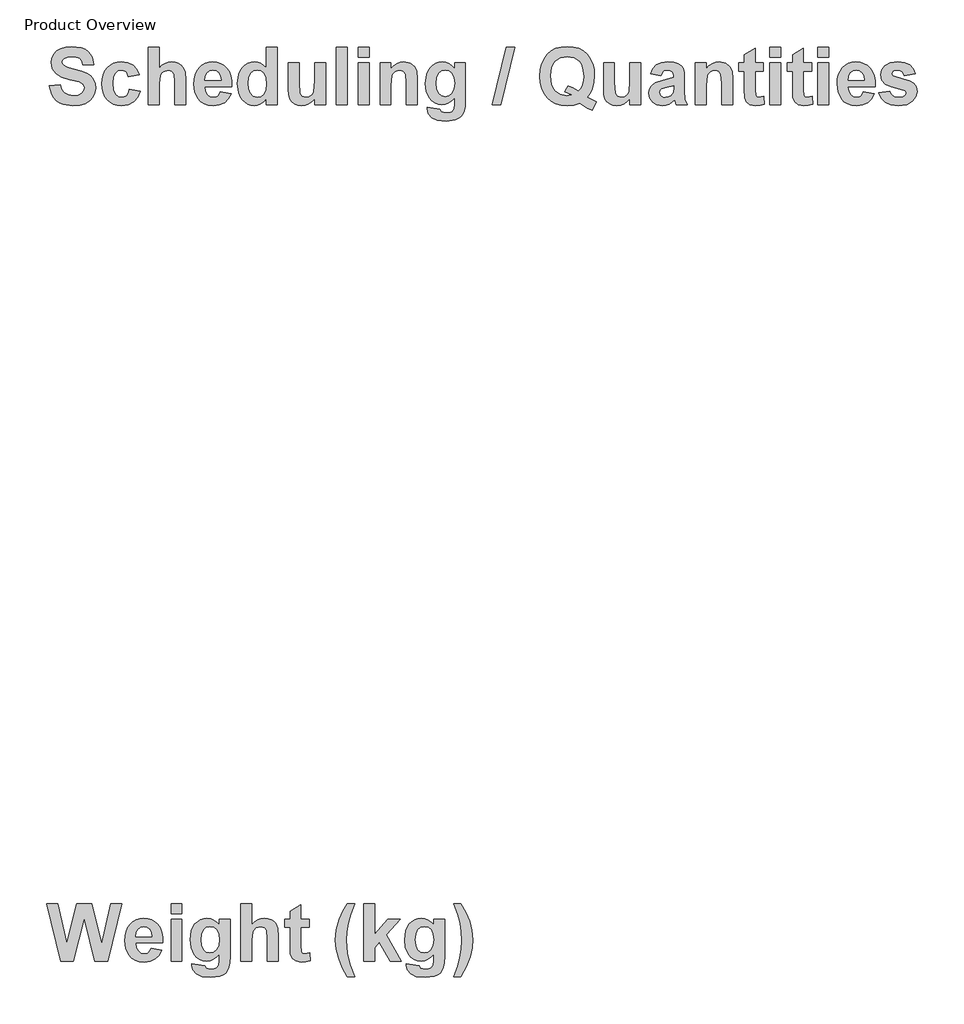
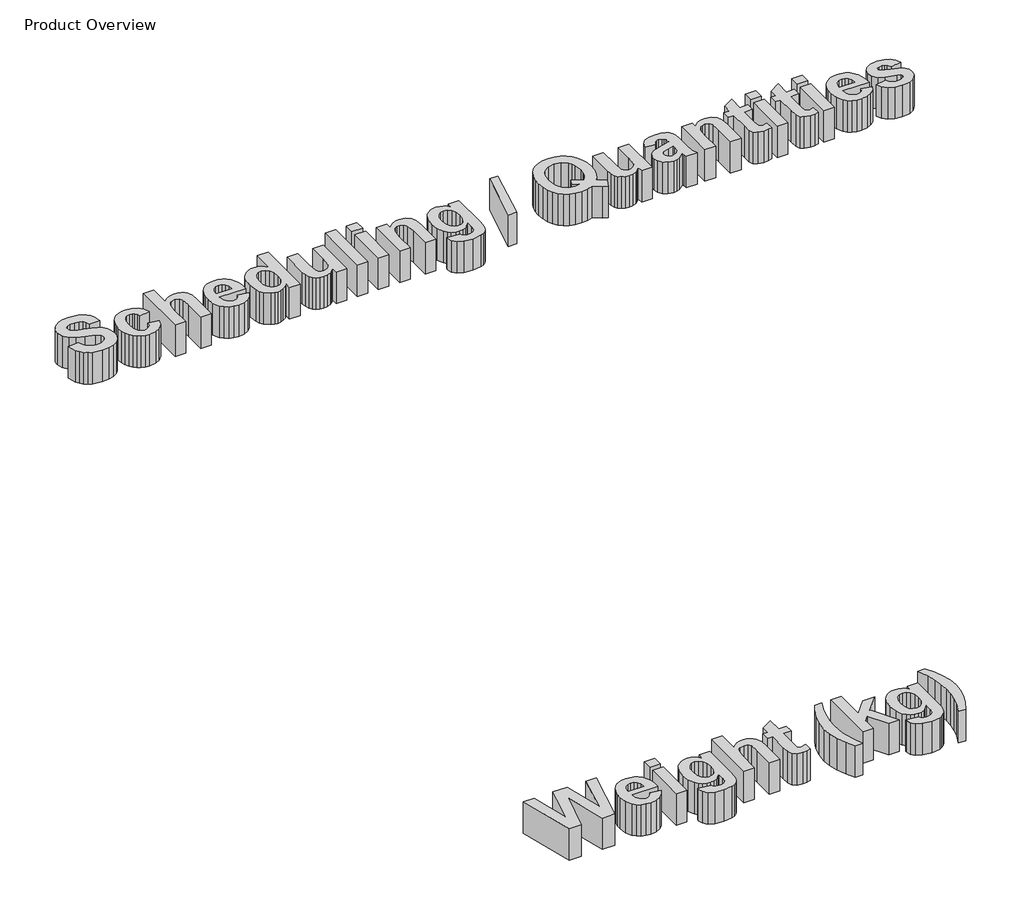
# One storey, part 9 of 12: 2 proxies.
"""IFC4 building model written with IfcOpenShell, lengths in millimetres."""

from ifc_helpers import new_model, si_unit, origin, origin_with_axes, place, context, project, spatial, polyline, outline, extrude, element, save

model = new_model("IFC4")

# Units and contexts
model_context = context("Model", 3, world=origin())
ifc_project = project(units=[si_unit("LENGTHUNIT", "METRE", prefix="MILLI")], contexts=[model_context])

# Site, building, storey
site = spatial("IfcSite", under=ifc_project)
building = spatial("IfcBuilding", under=site)
storey = spatial("IfcBuildingStorey", under=building, Name="Product Overview", Elevation=0.0)

# Proxies
placement = place(None, origin())
element("IfcBuildingElementProxy", 1, Name="250.0 BOLD", ObjectType="250.0 BOLD", at=placement, inside=storey, context=model_context, shape_type="SweptSolid", body=[
    extrude(outline(polyline([(8266.2637782, -26633.8362158), (8203.3297504, -26383.8362158), (8252.1888774, -26383.8362158), (8292.6154647, -26555.5872079), (8336.0802465, -26383.8362158), (8400.1303457, -26383.8362158), (8443.4091155, -26558.4393904), (8483.8357028, -26383.8362158), (8532.6948298, -26383.8362158), (8470.6908615, -26633.8362158), (8414.3292544, -26633.8362158), (8368.0122901, -26446.9562555), (8320.7652663, -26633.8362158), (8266.2637782, -26633.8362158)])), origin_with_axes(), (0.0, 0.0, 1.0), 150.0),
    extrude(outline(polyline([(8659.6789568, -26578.2806603), (8707.2980044, -26586.2171682), (8695.7032623, -26608.4378403), (8678.9001869, -26624.6286265), (8657.0592891, -26634.510509), (8630.3510798, -26637.8044698), (8608.7853246, -26635.8629705), (8590.2190113, -26630.0384728), (8574.6521401, -26620.3309765), (8562.0847107, -26606.7404817), (8548.9708715, -26578.6061811), (8544.5995917, -26543.9304619), (8546.0489344, -26522.5235918), (8550.3969627, -26503.5658785), (8557.6436765, -26487.057322), (8567.7890758, -26472.9979222), (8580.151117, -26461.7674534), (8594.0477564, -26453.74569), (8609.478994, -26448.932632), (8626.4448298, -26447.3282793), (8645.2979114, -26448.9752597), (8662.0506086, -26453.9162009), (8676.7029213, -26462.151103), (8689.2548496, -26473.6799658), (8699.2568648, -26488.6112964), (8706.2594379, -26507.0536017), (8710.2625691, -26529.0068817), (8711.2662584, -26554.4711365), (8592.2186393, -26554.4711365), (8595.2723347, -26574.5294202), (8603.4413576, -26589.5653825), (8615.4856284, -26598.9589837), (8630.1650679, -26602.0901841), (8640.1632078, -26600.6795938), (8648.4562385, -26596.447823), (8654.9821562, -26589.0848517), (8659.6789568, -26578.2806603)]), holes=[polyline([(8663.6472107, -26526.6933587), (8660.7485252, -26507.8674038), (8653.0445322, -26494.1722773), (8641.8528159, -26485.8249931), (8628.4909607, -26483.042565), (8614.385058, -26485.9722525), (8602.9453258, -26494.761315), (8595.4428457, -26508.6347029), (8593.0246909, -26526.6933587), (8663.6472107, -26526.6933587)])]), origin_with_axes(), (0.0, 0.0, 1.0), 150.0),
    extrude(outline(polyline([(8746.9805441, -26427.4870095), (8746.9805441, -26383.8362158), (8794.5995917, -26383.8362158), (8794.5995917, -26427.4870095), (8746.9805441, -26427.4870095)])), origin_with_axes(), (0.0, 0.0, 1.0), 150.0),
    extrude(outline(polyline([(8746.9805441, -26633.8362158), (8746.9805441, -26451.2965333), (8794.5995917, -26451.2965333), (8794.5995917, -26633.8362158), (8746.9805441, -26633.8362158)])), origin_with_axes(), (0.0, 0.0, 1.0), 150.0),
    extrude(outline(polyline([(8838.2503853, -26645.7409777), (8893.8059409, -26653.6774857), (8899.6963179, -26665.0862158), (8919.8476076, -26669.5505015), (8935.2555937, -26668.1399113), (8946.261298, -26663.9081404), (8955.1898695, -26651.6933587), (8957.2980044, -26629.495938), (8957.2980044, -26602.8962357), (8945.0173434, -26616.432477), (8931.7368685, -26626.1012208), (8917.4565795, -26631.9024671), (8902.1764766, -26633.8362158), (8885.4857834, -26631.8947166), (8870.6319578, -26626.0702188), (8857.6149997, -26616.3627225), (8846.4349092, -26602.7722277), (8834.3441353, -26575.2114638), (8830.3138774, -26541.636315), (8835.5919652, -26501.1709753), (8842.1895749, -26485.0015029), (8851.4262286, -26471.5408289), (8862.627633, -26460.9478385), (8875.119495, -26453.3814167), (8888.9018145, -26448.8415637), (8903.9745917, -26447.3282793), (8919.4445818, -26449.1225191), (8933.4884806, -26454.5052386), (8946.1062881, -26463.4764378), (8957.2980044, -26476.0361166), (8957.2980044, -26451.2965333), (9004.917052, -26451.2965333), (9004.917052, -26613.4369103), (9003.6227192, -26641.3464465), (8999.7397207, -26661.2109678), (8993.5238228, -26675.3401221), (8985.2307921, -26686.0435571), (8974.3335947, -26694.0653205), (8960.3051968, -26700.1494599), (8920.8396711, -26705.2647873), (8882.3197058, -26701.4515432), (8856.9135798, -26690.0118111), (8842.776675, -26672.7127039), (8838.0643734, -26651.3213349), (8838.2503853, -26645.7409777)]), holes=[polyline([(8877.932925, -26539.8382), (8880.6843511, -26566.0348765), (8888.9386294, -26584.1090333), (8901.2386666, -26594.6187059), (8916.1273695, -26598.1219301), (8932.0856408, -26594.5257), (8945.3622405, -26583.7370095), (8954.3140634, -26565.8953676), (8957.2980044, -26541.1402833), (8954.4380714, -26515.4318879), (8945.8582722, -26497.3344797), (8932.9071934, -26486.6155437), (8916.9334211, -26483.042565), (8901.4401795, -26486.5457892), (8888.9386294, -26497.0554619), (8880.6843511, -26514.7575948), (8877.932925, -26539.8382)])]), origin_with_axes(), (0.0, 0.0, 1.0), 150.0),
    extrude(outline(polyline([(9100.1551472, -26383.8362158), (9100.1551472, -26474.3620095), (9112.1180379, -26462.5347525), (9125.1892494, -26454.0867119), (9139.3687819, -26449.0178875), (9154.6566353, -26447.3282793), (9170.1576274, -26448.870628), (9184.0465163, -26453.4976742), (9195.5172504, -26460.5351246), (9203.7637782, -26469.3086861), (9212.8163576, -26490.6070492), (9215.2345123, -26526.8173666), (9215.2345123, -26633.8362158), (9167.6154647, -26633.8362158), (9167.6154647, -26536.7380015), (9164.9492941, -26500.0006503), (9155.5246909, -26487.6308587), (9138.6596115, -26483.042565), (9117.8262782, -26488.932942), (9109.8820198, -26496.3114142), (9104.4024191, -26506.6660769), (9100.1551472, -26541.760323), (9100.1551472, -26633.8362158), (9052.5360996, -26633.8362158), (9052.5360996, -26383.8362158), (9100.1551472, -26383.8362158)])), origin_with_axes(), (0.0, 0.0, 1.0), 150.0),
    extrude(outline(polyline([(9350.1551472, -26451.2965333), (9350.1551472, -26487.010819), (9314.4408615, -26487.010819), (9314.4408615, -26565.3218309), (9315.525931, -26593.0066027), (9320.4552465, -26599.5170194), (9329.8178457, -26602.0901841), (9352.1392742, -26597.5018904), (9354.1234012, -26631.3560571), (9335.7547256, -26636.1923666), (9315.1229052, -26637.8044698), (9291.0653655, -26633.3401841), (9275.3473595, -26621.807446), (9268.3719131, -26602.6482198), (9266.8218139, -26567.9880015), (9266.8218139, -26487.010819), (9243.0122901, -26487.010819), (9243.0122901, -26451.2965333), (9266.8218139, -26451.2965333), (9266.8218139, -26415.5822476), (9314.4408615, -26387.8044698), (9314.4408615, -26451.2965333), (9350.1551472, -26451.2965333)])), origin_with_axes(), (0.0, 0.0, 1.0), 150.0),
    extrude(outline(polyline([(9548.5678457, -26701.2965333), (9516.8218139, -26701.2965333), (9494.6011418, -26662.4122947), (9478.4103556, -26622.0244599), (9468.5284731, -26581.5436191), (9465.2345123, -26542.3803627), (9469.2647703, -26495.9238894), (9481.3555441, -26452.0405809), (9497.2285599, -26416.4813051), (9516.8218139, -26383.8362158), (9548.5678457, -26383.8362158), (9531.353994, -26430.1376791), (9520.51105, -26468.9676642), (9514.7679325, -26505.1159777), (9512.8535599, -26543.3724261), (9517.4418536, -26598.8969797), (9530.0286592, -26652.8714341), (9548.5678457, -26701.2965333)])), origin_with_axes(), (0.0, 0.0, 1.0), 150.0),
    extrude(outline(polyline([(9588.2503853, -26633.8362158), (9588.2503853, -26383.8362158), (9635.869433, -26383.8362158), (9635.869433, -26515.5946484), (9693.4091155, -26451.2965333), (9748.9646711, -26451.2965333), (9687.7667544, -26518.3848269), (9752.932925, -26633.8362158), (9705.3138774, -26633.8362158), (9657.1367941, -26552.0529817), (9635.869433, -26575.3664738), (9635.869433, -26633.8362158), (9588.2503853, -26633.8362158)])), origin_with_axes(), (0.0, 0.0, 1.0), 150.0),
    extrude(outline(polyline([(9774.7583218, -26645.7409777), (9830.3138774, -26653.6774857), (9836.2042544, -26665.0862158), (9856.3555441, -26669.5505015), (9871.7635302, -26668.1399113), (9882.7692345, -26663.9081404), (9891.697806, -26651.6933587), (9893.8059409, -26629.495938), (9893.8059409, -26602.8962357), (9881.5252799, -26616.432477), (9868.244805, -26626.1012208), (9853.964516, -26631.9024671), (9838.6844131, -26633.8362158), (9821.9937199, -26631.8947166), (9807.1398943, -26626.0702188), (9794.1229362, -26616.3627225), (9782.9428457, -26602.7722277), (9770.8520718, -26575.2114638), (9766.8218139, -26541.636315), (9772.0999017, -26501.1709753), (9778.6975115, -26485.0015029), (9787.9341651, -26471.5408289), (9799.1355695, -26460.9478385), (9811.6274315, -26453.3814167), (9825.409751, -26448.8415637), (9840.4825282, -26447.3282793), (9855.9525183, -26449.1225191), (9869.9964171, -26454.5052386), (9882.6142246, -26463.4764378), (9893.8059409, -26476.0361166), (9893.8059409, -26451.2965333), (9941.4249885, -26451.2965333), (9941.4249885, -26613.4369103), (9940.1306557, -26641.3464465), (9936.2476572, -26661.2109678), (9930.0317593, -26675.3401221), (9921.7387286, -26686.0435571), (9910.8415312, -26694.0653205), (9896.8131334, -26700.1494599), (9857.3476076, -26705.2647873), (9818.8276423, -26701.4515432), (9793.4215163, -26690.0118111), (9779.2846115, -26672.7127039), (9774.5723099, -26651.3213349), (9774.7583218, -26645.7409777)]), holes=[polyline([(9814.4408615, -26539.8382), (9817.1922876, -26566.0348765), (9825.4465659, -26584.1090333), (9837.7466031, -26594.6187059), (9852.635306, -26598.1219301), (9868.5935773, -26594.5257), (9881.870177, -26583.7370095), (9890.8219999, -26565.8953676), (9893.8059409, -26541.1402833), (9890.9460079, -26515.4318879), (9882.3662088, -26497.3344797), (9869.4151299, -26486.6155437), (9853.4413576, -26483.042565), (9837.948116, -26486.5457892), (9825.4465659, -26497.0554619), (9817.1922876, -26514.7575948), (9814.4408615, -26539.8382)])]), origin_with_axes(), (0.0, 0.0, 1.0), 150.0),
    extrude(outline(polyline([(9981.1075282, -26701.2965333), (9998.7476572, -26656.2196484), (10008.2342643, -26620.0403329), (10014.713679, -26581.1328428), (10016.8218139, -26543.3724261), (10014.9151919, -26505.1159777), (10009.1953258, -26468.9676642), (9998.3601324, -26430.1376791), (9981.1075282, -26383.8362158), (10012.8535599, -26383.8362158), (10034.6092023, -26420.4340581), (10050.8929945, -26459.1710373), (10061.0538948, -26499.2566027), (10064.4408615, -26539.9002039), (10061.7281879, -26575.6764936), (10053.5901671, -26613.932942), (10037.2056185, -26657.9092565), (10012.8535599, -26701.2965333), (9981.1075282, -26701.2965333)])), origin_with_axes(), (0.0, 0.0, 1.0), 150.0),
])
element("IfcBuildingElementProxy", 2, Name="250.0 BOLD", ObjectType="250.0 BOLD", at=placement, inside=storey, context=model_context, shape_type="SweptSolid", body=[
    extrude(outline(polyline([(8215.2345123, -22810.5028825), (8262.8535599, -22806.5346285), (8269.7980044, -22827.8329916), (8281.4547504, -22842.620938), (8297.901303, -22851.2704916), (8319.2151671, -22854.1536761), (8341.3350828, -22851.6037629), (8357.2235996, -22843.9540234), (8366.8032127, -22832.8940655), (8369.9964171, -22820.1134976), (8364.6950778, -22805.2015432), (8346.1248893, -22794.5058587), (8304.8302465, -22783.9031801), (8269.5809905, -22772.9439787), (8246.6705242, -22759.5356206), (8229.0458963, -22736.7026593), (8223.1710203, -22709.3744103), (8225.8681929, -22690.9592317), (8233.9597107, -22673.7841325), (8247.135554, -22659.197699), (8265.0857028, -22648.5485174), (8287.5156383, -22642.0381007), (8314.1308417, -22639.8679619), (8355.2627241, -22645.2778081), (8371.4748242, -22652.0401159), (8384.7843635, -22661.5073468), (8395.2339698, -22673.229972), (8402.8662708, -22686.7584628), (8409.6789568, -22719.2330412), (8362.0599092, -22719.2330412), (8356.7973223, -22702.8717441), (8347.7059905, -22691.8582892), (8333.94886, -22685.6036389), (8314.6888774, -22683.5187555), (8294.4135798, -22685.7353974), (8279.0985996, -22692.385323), (8272.8672008, -22699.0507496), (8270.7900679, -22707.6382992), (8272.6811889, -22715.745318), (8278.354552, -22722.5812555), (8294.8243561, -22730.5875179), (8325.0125381, -22738.8572972), (8357.2313501, -22747.4603478), (8379.7930441, -22756.4664242), (8395.604056, -22767.3713721), (8407.5708218, -22781.6710373), (8415.104304, -22799.5436811), (8417.6154647, -22821.167565), (8414.6470247, -22841.8148865), (8405.7417048, -22861.0981206), (8391.4032871, -22877.3121583), (8372.135554, -22888.7518904), (8347.729242, -22895.541325), (8317.9750877, -22897.8044698), (8276.2154151, -22892.2318631), (8259.4510922, -22885.2661048), (8245.4304449, -22875.5140432), (8234.0565919, -22863.0919357), (8225.2326522, -22848.1160397), (8215.2345123, -22810.5028825)])), origin_with_axes(), (0.0, 0.0, 1.0), 150.0),
    extrude(outline(polyline([(8608.0916552, -22762.8838349), (8560.4726076, -22770.8203428), (8556.8221239, -22758.7063175), (8550.3349588, -22750.0180115), (8541.2436269, -22744.7864266), (8529.7806433, -22743.042565), (8514.682677, -22746.3132744), (8502.994929, -22756.1254023), (8495.5079498, -22773.5950204), (8493.0122901, -22799.8382), (8495.6087063, -22828.9335621), (8503.3979548, -22848.0152833), (8515.5584831, -22858.5714589), (8531.2687385, -22862.0901841), (8543.1657499, -22860.0828056), (8552.6911095, -22854.0606702), (8559.7983144, -22843.1247203), (8564.4408615, -22826.3758984), (8612.0599092, -22834.3124063), (8601.635492, -22861.8964217), (8584.6231532, -22881.776444), (8560.8678829, -22893.7974633), (8530.2146711, -22897.8044698), (8511.8208063, -22896.2272439), (8495.3916924, -22891.495566), (8480.9273292, -22883.6094363), (8468.4277167, -22872.5688547), (8458.3501342, -22858.7419698), (8451.151861, -22842.4969301), (8446.8328971, -22823.8337357), (8445.3932425, -22802.7523865), (8446.823209, -22781.4327095), (8451.1131086, -22762.6125675), (8458.2629411, -22746.2919605), (8468.2727068, -22732.4708884), (8480.7238786, -22721.470997), (8495.19793, -22713.6139316), (8511.6948608, -22708.8996924), (8530.2146711, -22707.3282793), (8558.8760054, -22710.7617491), (8580.9959211, -22721.0621583), (8597.1944578, -22738.3845169), (8608.0916552, -22762.8838349)])), origin_with_axes(), (0.0, 0.0, 1.0), 150.0),
    extrude(outline(polyline([(8695.3932425, -22643.8362158), (8695.3932425, -22734.3620095), (8707.3561331, -22722.5347525), (8720.4273447, -22714.0867119), (8734.6068772, -22709.0178875), (8749.8947306, -22707.3282793), (8765.3957226, -22708.870628), (8779.2846115, -22713.4976742), (8790.7553457, -22720.5351246), (8799.0018734, -22729.3086861), (8808.0544528, -22750.6070492), (8810.4726076, -22786.8173666), (8810.4726076, -22893.8362158), (8762.8535599, -22893.8362158), (8762.8535599, -22796.7380015), (8760.1873893, -22760.0006503), (8750.7627861, -22747.6308587), (8733.8977068, -22743.042565), (8713.0643734, -22748.932942), (8705.120115, -22756.3114142), (8699.6405143, -22766.6660769), (8695.3932425, -22801.760323), (8695.3932425, -22893.8362158), (8647.7741949, -22893.8362158), (8647.7741949, -22643.8362158), (8695.3932425, -22643.8362158)])), origin_with_axes(), (0.0, 0.0, 1.0), 150.0),
    extrude(outline(polyline([(8961.2662584, -22838.2806603), (9008.885306, -22846.2171682), (8997.2905639, -22868.4378403), (8980.4874885, -22884.6286265), (8958.6465907, -22894.510509), (8931.9383814, -22897.8044698), (8910.3726262, -22895.8629705), (8891.8063129, -22890.0384728), (8876.2394416, -22880.3309765), (8863.6720123, -22866.7404817), (8850.558173, -22838.6061811), (8846.1868933, -22803.9304619), (8847.636236, -22782.5235918), (8851.9842643, -22763.5658785), (8859.2309781, -22747.057322), (8869.3763774, -22732.9979222), (8881.7384186, -22721.7674534), (8895.635058, -22713.74569), (8911.0662956, -22708.932632), (8928.0321314, -22707.3282793), (8946.885213, -22708.9752597), (8963.6379101, -22713.9162009), (8978.2902229, -22722.151103), (8990.8421512, -22733.6799658), (9000.8441663, -22748.6112964), (9007.8467395, -22767.0536017), (9011.8498707, -22789.0068817), (9012.8535599, -22814.4711365), (8893.8059409, -22814.4711365), (8896.8596363, -22834.5294202), (8905.0286592, -22849.5653825), (8917.07293, -22858.9589837), (8931.7523695, -22862.0901841), (8941.7505093, -22860.6795938), (8950.0435401, -22856.447823), (8956.5694578, -22849.0848517), (8961.2662584, -22838.2806603)]), holes=[polyline([(8965.2345123, -22786.6933587), (8962.3358268, -22767.8674038), (8954.6318338, -22754.1722773), (8943.4401175, -22745.8249931), (8930.0782623, -22743.042565), (8915.9723595, -22745.9722525), (8904.5326274, -22754.761315), (8897.0301472, -22768.6347029), (8894.6119925, -22786.6933587), (8965.2345123, -22786.6933587)])]), origin_with_axes(), (0.0, 0.0, 1.0), 150.0),
    extrude(outline(polyline([(9211.2662584, -22893.8362158), (9163.6472107, -22893.8362158), (9163.6472107, -22867.5465333), (9152.0292172, -22880.9006379), (9138.5046016, -22890.3329916), (9123.9724216, -22895.9366003), (9109.3317345, -22897.8044698), (9094.8944981, -22896.2233686), (9081.5307053, -22891.480065), (9058.0234508, -22872.5068507), (9048.6782902, -22858.6063361), (9042.0031755, -22842.2024113), (9036.6630838, -22801.8843309), (9041.995425, -22761.1167218), (9048.6608516, -22744.8949336), (9057.9924488, -22731.447823), (9069.3624265, -22720.8955226), (9082.1429945, -22713.3581652), (9096.3341527, -22708.8357508), (9111.9359012, -22707.3282793), (9126.3750753, -22708.8900043), (9139.8066849, -22713.5751791), (9163.6472107, -22732.3158785), (9163.6472107, -22643.8362158), (9211.2662584, -22643.8362158), (9211.2662584, -22893.8362158)]), holes=[polyline([(9084.2821314, -22799.0941523), (9086.2662584, -22825.0118111), (9092.2186393, -22842.620938), (9105.9680193, -22857.2228726), (9124.2746909, -22862.0901841), (9139.4656631, -22858.4397004), (9152.1764766, -22847.4882496), (9160.7795272, -22829.2823344), (9163.6472107, -22803.8684579), (9160.8647827, -22776.0364266), (9152.5174984, -22757.2724757), (9139.8144354, -22746.6000427), (9123.9646711, -22743.042565), (9108.463679, -22746.5612902), (9095.6908615, -22757.1174658), (9087.1343139, -22774.6490878), (9084.2821314, -22799.0941523)])]), origin_with_axes(), (0.0, 0.0, 1.0), 150.0),
    extrude(outline(polyline([(9373.9646711, -22893.8362158), (9373.9646711, -22867.0505015), (9362.9977192, -22879.8465705), (9349.0700778, -22889.588944), (9333.2203134, -22895.7505883), (9316.4869925, -22897.8044698), (9299.947434, -22895.7893408), (9285.1749885, -22889.7439539), (9273.2082226, -22880.0480834), (9265.0857028, -22867.0815035), (9260.4354052, -22849.6816399), (9258.885306, -22826.6859182), (9258.885306, -22711.2965333), (9306.5043536, -22711.2965333), (9306.5043536, -22795.6839341), (9309.0775183, -22843.1479718), (9318.5021215, -22856.9748567), (9335.8942345, -22862.0901841), (9347.2952142, -22860.385075), (9357.4406135, -22855.2697476), (9365.4546264, -22847.620008), (9370.4614468, -22838.3116623), (9373.9646711, -22788.7394896), (9373.9646711, -22711.2965333), (9421.5837187, -22711.2965333), (9421.5837187, -22893.8362158), (9373.9646711, -22893.8362158)])), origin_with_axes(), (0.0, 0.0, 1.0), 150.0),
    extrude(outline(polyline([(9469.2027663, -22893.8362158), (9469.2027663, -22643.8362158), (9516.8218139, -22643.8362158), (9516.8218139, -22893.8362158), (9469.2027663, -22893.8362158)])), origin_with_axes(), (0.0, 0.0, 1.0), 150.0),
    extrude(outline(polyline([(9564.4408615, -22687.4870095), (9564.4408615, -22643.8362158), (9612.0599092, -22643.8362158), (9612.0599092, -22687.4870095), (9564.4408615, -22687.4870095)])), origin_with_axes(), (0.0, 0.0, 1.0), 150.0),
    extrude(outline(polyline([(9564.4408615, -22893.8362158), (9564.4408615, -22711.2965333), (9612.0599092, -22711.2965333), (9612.0599092, -22893.8362158), (9564.4408615, -22893.8362158)])), origin_with_axes(), (0.0, 0.0, 1.0), 150.0),
    extrude(outline(polyline([(9822.3773695, -22893.8362158), (9774.7583218, -22893.8362158), (9774.7583218, -22800.0242119), (9771.7821314, -22761.4577436), (9762.0475084, -22747.8788746), (9745.8644726, -22743.042565), (9734.339485, -22744.7709256), (9724.0700778, -22749.9560075), (9715.947558, -22758.0010224), (9710.8632326, -22768.3091821), (9707.2980044, -22810.5648865), (9707.2980044, -22893.8362158), (9659.6789568, -22893.8362158), (9659.6789568, -22711.2965333), (9707.2980044, -22711.2965333), (9707.2980044, -22737.5862158), (9719.3461505, -22724.3483686), (9732.8591403, -22714.8927634), (9747.8369739, -22709.2194003), (9764.2796512, -22707.3282793), (9791.9334211, -22713.0946484), (9810.9066353, -22727.7895888), (9819.8662088, -22748.0338845), (9822.3773695, -22780.4929619), (9822.3773695, -22893.8362158)])), origin_with_axes(), (0.0, 0.0, 1.0), 150.0),
    extrude(outline(polyline([(9866.0281631, -22905.7409777), (9921.5837187, -22913.6774857), (9927.4740957, -22925.0862158), (9947.6253853, -22929.5505015), (9963.0333715, -22928.1399113), (9974.0390758, -22923.9081404), (9982.9676472, -22911.6933587), (9985.0757822, -22889.495938), (9985.0757822, -22862.8962357), (9972.7951212, -22876.432477), (9959.5146463, -22886.1012208), (9945.2343573, -22891.9024671), (9929.9542544, -22893.8362158), (9913.2635612, -22891.8947166), (9898.4097355, -22886.0702188), (9885.3927775, -22876.3627225), (9874.2126869, -22862.7722277), (9862.1219131, -22835.2114638), (9858.0916552, -22801.636315), (9863.369743, -22761.1709753), (9869.9673527, -22745.0015029), (9879.2040064, -22731.5408289), (9890.4054108, -22720.9478385), (9902.8972727, -22713.3814167), (9916.6795923, -22708.8415637), (9931.7523695, -22707.3282793), (9947.2223595, -22709.1225191), (9961.2662584, -22714.5052386), (9973.8840659, -22723.4764378), (9985.0757822, -22736.0361166), (9985.0757822, -22711.2965333), (10032.6948298, -22711.2965333), (10032.6948298, -22873.4369103), (10031.4004969, -22901.3464465), (10027.5174984, -22921.2109678), (10021.3016006, -22935.3401221), (10013.0085699, -22946.0435571), (10002.1113724, -22954.0653205), (9988.0829746, -22960.1494599), (9948.6174488, -22965.2647873), (9910.0974836, -22961.4515432), (9884.6913576, -22950.0118111), (9870.5544528, -22932.7127039), (9865.8421512, -22911.3213349), (9866.0281631, -22905.7409777)]), holes=[polyline([(9905.7107028, -22799.8382), (9908.4621289, -22826.0348765), (9916.7164072, -22844.1090333), (9929.0164444, -22854.6187059), (9943.9051472, -22858.1219301), (9959.8634186, -22854.5257), (9973.1400183, -22843.7370095), (9982.0918412, -22825.8953676), (9985.0757822, -22801.1402833), (9982.2158491, -22775.4318879), (9973.63605, -22757.3344797), (9960.6849712, -22746.6155437), (9944.7111988, -22743.042565), (9929.2179573, -22746.5457892), (9916.7164072, -22757.0554619), (9908.4621289, -22774.7575948), (9905.7107028, -22799.8382)])]), origin_with_axes(), (0.0, 0.0, 1.0), 150.0),
    extrude(outline(polyline([(10150.8743933, -22893.8362158), (10210.3982028, -22643.8362158), (10246.9805441, -22643.8362158), (10187.4567345, -22893.8362158), (10150.8743933, -22893.8362158)])), origin_with_axes(), (0.0, 0.0, 1.0), 150.0),
    extrude(outline(polyline([(10564.8128853, -22860.9121087), (10604.1234012, -22881.9314539), (10586.0182425, -22917.6457396), (10564.2548496, -22908.7171682), (10531.5787584, -22887.2017912), (10506.2811393, -22895.1538002), (10478.3793536, -22897.8044698), (10451.698271, -22895.6885844), (10428.0786343, -22889.3409281), (10407.5204436, -22878.761501), (10390.0236988, -22863.9503031), (10376.0534297, -22845.3103602), (10366.0746661, -22823.244698), (10360.0874079, -22797.7533165), (10358.0916552, -22768.8362158), (10360.1029089, -22739.9946825), (10366.1366701, -22714.5439911), (10376.1929387, -22692.4841418), (10390.2717147, -22673.8151345), (10407.7955862, -22658.9632465), (10428.1871413, -22648.354755), (10451.4463799, -22641.9896601), (10477.573302, -22639.8679619), (10503.4715845, -22641.979972), (10526.5409359, -22648.3160025), (10546.7813563, -22658.8760534), (10564.1928457, -22673.6601246), (10578.1902415, -22692.245814), (10588.1883814, -22714.2107198), (10594.1872653, -22739.5548418), (10596.1868933, -22768.2781801), (10593.8927465, -22798.5051146), (10587.010306, -22824.8257992), (10577.9887286, -22843.1789738), (10564.8128853, -22860.9121087)]), holes=[polyline([(10525.3163576, -22833.6923666), (10535.5082598, -22821.152064), (10542.7704746, -22806.2246087), (10547.1185029, -22788.9100005), (10548.5678457, -22769.2082396), (10543.6385302, -22731.5640804), (10537.4768858, -22716.8284498), (10528.8505838, -22704.8171186), (10506.0796264, -22688.8433463), (10477.2012782, -22683.5187555), (10448.3461815, -22688.8045938), (10425.5209707, -22704.6621087), (10416.8539785, -22716.5668706), (10410.6632698, -22731.1378031), (10405.7107028, -22768.2781801), (10410.5935153, -22805.9455908), (10416.6970309, -22820.7102858), (10425.2419528, -22832.7623071), (10447.3463675, -22848.8058339), (10474.5971115, -22854.1536761), (10495.6164568, -22850.9294698), (10465.2345123, -22838.2806603), (10478.9993933, -22810.5028825), (10502.7004101, -22820.1755015), (10525.3163576, -22833.6923666)])]), origin_with_axes(), (0.0, 0.0, 1.0), 150.0),
    extrude(outline(polyline([(10750.948798, -22893.8362158), (10750.948798, -22867.0505015), (10739.9818462, -22879.8465705), (10726.0542048, -22889.588944), (10710.2044404, -22895.7505883), (10693.4711195, -22897.8044698), (10676.9315609, -22895.7893408), (10662.1591155, -22889.7439539), (10650.1923496, -22880.0480834), (10642.0698298, -22867.0815035), (10637.4195322, -22849.6816399), (10635.869433, -22826.6859182), (10635.869433, -22711.2965333), (10683.4884806, -22711.2965333), (10683.4884806, -22795.6839341), (10686.0616453, -22843.1479718), (10695.4862484, -22856.9748567), (10712.8783615, -22862.0901841), (10724.2793412, -22860.385075), (10734.4247405, -22855.2697476), (10742.4387534, -22847.620008), (10747.4455738, -22838.3116623), (10750.948798, -22788.7394896), (10750.948798, -22711.2965333), (10798.5678457, -22711.2965333), (10798.5678457, -22893.8362158), (10750.948798, -22893.8362158)])), origin_with_axes(), (0.0, 0.0, 1.0), 150.0),
    extrude(outline(polyline([(10885.869433, -22766.8520888), (10842.2186393, -22758.9155809), (10851.681995, -22736.0361166), (10866.183173, -22719.9770888), (10887.3187757, -22710.4904817), (10916.6854052, -22707.3282793), (10943.2386046, -22709.2426518), (10962.010306, -22714.9857694), (10974.6901175, -22723.666325), (10982.9676472, -22734.3930115), (10987.5249389, -22751.0643284), (10989.0440361, -22777.5787753), (10989.0440361, -22833.8783785), (10991.5551968, -22869.3446484), (11000.948798, -22893.8362158), (10953.3297504, -22893.8362158), (10948.8654647, -22878.7072476), (10947.1913576, -22872.6928627), (10921.7077266, -22891.511067), (10907.6793288, -22896.2311191), (10892.7518734, -22897.8044698), (10868.4695694, -22893.9834753), (10849.9381334, -22882.5204916), (10838.1961319, -22865.229135), (10834.2821314, -22843.9230214), (10836.025993, -22829.3210869), (10841.2575778, -22816.3932595), (10849.635864, -22805.7130759), (10860.8198298, -22797.854073), (10897.0921512, -22786.6313547), (10941.4249885, -22774.7885968), (10941.4249885, -22769.7662753), (10939.9446438, -22757.3964837), (10935.5036095, -22749.1809579), (10926.9703134, -22744.5771632), (10913.213183, -22743.042565), (10903.339051, -22744.3601494), (10895.9140758, -22748.3129023), (10885.869433, -22766.8520888)]), holes=[polyline([(10941.4249885, -22810.5028825), (10914.5772703, -22817.1063051), (10890.5197306, -22824.6397873), (10884.0558169, -22831.4137208), (10881.901179, -22839.8307595), (10883.6295396, -22848.2710497), (10888.8146215, -22855.4867615), (10896.6658739, -22860.4393284), (10906.3927465, -22862.0901841), (10918.0649935, -22860.1680611), (10929.1482028, -22854.401692), (10939.6888774, -22840.1407793), (10941.4249885, -22819.1214341), (10941.4249885, -22810.5028825)])]), origin_with_axes(), (0.0, 0.0, 1.0), 150.0),
    extrude(outline(polyline([(11199.3614965, -22893.8362158), (11151.7424488, -22893.8362158), (11151.7424488, -22800.0242119), (11148.7662584, -22761.4577436), (11139.0316353, -22747.8788746), (11122.8485996, -22743.042565), (11111.323612, -22744.7709256), (11101.0542048, -22749.9560075), (11092.9316849, -22758.0010224), (11087.8473595, -22768.3091821), (11084.2821314, -22810.5648865), (11084.2821314, -22893.8362158), (11036.6630838, -22893.8362158), (11036.6630838, -22711.2965333), (11084.2821314, -22711.2965333), (11084.2821314, -22737.5862158), (11096.3302775, -22724.3483686), (11109.8432673, -22714.8927634), (11124.8211009, -22709.2194003), (11141.2637782, -22707.3282793), (11168.917548, -22713.0946484), (11187.8907623, -22727.7895888), (11196.8503357, -22748.0338845), (11199.3614965, -22780.4929619), (11199.3614965, -22893.8362158)])), origin_with_axes(), (0.0, 0.0, 1.0), 150.0),
    extrude(outline(polyline([(11334.2821314, -22711.2965333), (11334.2821314, -22747.010819), (11298.5678457, -22747.010819), (11298.5678457, -22825.3218309), (11299.6529151, -22853.0066027), (11304.5822306, -22859.5170194), (11313.9448298, -22862.0901841), (11336.2662584, -22857.5018904), (11338.2503853, -22891.3560571), (11319.8817097, -22896.1923666), (11299.2498893, -22897.8044698), (11275.1923496, -22893.3401841), (11259.4743437, -22881.807446), (11252.4988972, -22862.6482198), (11250.948798, -22827.9880015), (11250.948798, -22747.010819), (11227.1392742, -22747.010819), (11227.1392742, -22711.2965333), (11250.948798, -22711.2965333), (11250.948798, -22675.5822476), (11298.5678457, -22647.8044698), (11298.5678457, -22711.2965333), (11334.2821314, -22711.2965333)])), origin_with_axes(), (0.0, 0.0, 1.0), 150.0),
    extrude(outline(polyline([(11362.0599092, -22687.4870095), (11362.0599092, -22643.8362158), (11409.6789568, -22643.8362158), (11409.6789568, -22687.4870095), (11362.0599092, -22687.4870095)])), origin_with_axes(), (0.0, 0.0, 1.0), 150.0),
    extrude(outline(polyline([(11362.0599092, -22893.8362158), (11362.0599092, -22711.2965333), (11409.6789568, -22711.2965333), (11409.6789568, -22893.8362158), (11362.0599092, -22893.8362158)])), origin_with_axes(), (0.0, 0.0, 1.0), 150.0),
    extrude(outline(polyline([(11544.5995917, -22711.2965333), (11544.5995917, -22747.010819), (11508.885306, -22747.010819), (11508.885306, -22825.3218309), (11509.9703754, -22853.0066027), (11514.8996909, -22859.5170194), (11524.2622901, -22862.0901841), (11546.5837187, -22857.5018904), (11548.5678457, -22891.3560571), (11530.1991701, -22896.1923666), (11509.5673496, -22897.8044698), (11485.5098099, -22893.3401841), (11469.791804, -22881.807446), (11462.8163576, -22862.6482198), (11461.2662584, -22827.9880015), (11461.2662584, -22747.010819), (11437.4567345, -22747.010819), (11437.4567345, -22711.2965333), (11461.2662584, -22711.2965333), (11461.2662584, -22675.5822476), (11508.885306, -22647.8044698), (11508.885306, -22711.2965333), (11544.5995917, -22711.2965333)])), origin_with_axes(), (0.0, 0.0, 1.0), 150.0),
    extrude(outline(polyline([(11572.3773695, -22893.8362158), (11572.3773695, -22711.2965333), (11619.9964171, -22711.2965333), (11619.9964171, -22893.8362158), (11572.3773695, -22893.8362158)])), origin_with_axes(), (0.0, 0.0, 1.0), 150.0),
    extrude(outline(polyline([(11572.3773695, -22687.4870095), (11572.3773695, -22643.8362158), (11619.9964171, -22643.8362158), (11619.9964171, -22687.4870095), (11572.3773695, -22687.4870095)])), origin_with_axes(), (0.0, 0.0, 1.0), 150.0),
    extrude(outline(polyline([(11770.7900679, -22838.2806603), (11818.4091155, -22846.2171682), (11806.8143734, -22868.4378403), (11790.011298, -22884.6286265), (11768.1704002, -22894.510509), (11741.4621909, -22897.8044698), (11719.8964357, -22895.8629705), (11701.3301224, -22890.0384728), (11685.7632512, -22880.3309765), (11673.1958218, -22866.7404817), (11660.0819826, -22838.6061811), (11655.7107028, -22803.9304619), (11657.1600456, -22782.5235918), (11661.5080738, -22763.5658785), (11668.7547876, -22747.057322), (11678.9001869, -22732.9979222), (11691.2622281, -22721.7674534), (11705.1588675, -22713.74569), (11720.5901051, -22708.932632), (11737.5559409, -22707.3282793), (11756.4090225, -22708.9752597), (11773.1617197, -22713.9162009), (11787.8140324, -22722.151103), (11800.3659607, -22733.6799658), (11810.3679759, -22748.6112964), (11817.370549, -22767.0536017), (11821.3736802, -22789.0068817), (11822.3773695, -22814.4711365), (11703.3297504, -22814.4711365), (11706.3834459, -22834.5294202), (11714.5524687, -22849.5653825), (11726.5967395, -22858.9589837), (11741.276179, -22862.0901841), (11751.2743189, -22860.6795938), (11759.5673496, -22856.447823), (11766.0932673, -22849.0848517), (11770.7900679, -22838.2806603)]), holes=[polyline([(11774.7583218, -22786.6933587), (11771.8596363, -22767.8674038), (11764.1556433, -22754.1722773), (11752.963927, -22745.8249931), (11739.6020718, -22743.042565), (11725.4961691, -22745.9722525), (11714.0564369, -22754.761315), (11706.5539568, -22768.6347029), (11704.135802, -22786.6933587), (11774.7583218, -22786.6933587)])]), origin_with_axes(), (0.0, 0.0, 1.0), 150.0),
    extrude(outline(polyline([(11838.2503853, -22842.2489142), (11885.869433, -22834.3124063), (11890.4034731, -22846.3101742), (11898.0532127, -22855.0217317), (11909.0821686, -22860.323071), (11923.7538576, -22862.0901841), (11939.6733764, -22860.4005759), (11951.0976076, -22855.3317515), (11955.7479052, -22849.8133984), (11957.2980044, -22842.682942), (11954.0117941, -22833.7543706), (11938.448798, -22827.4919698), (11892.4573546, -22815.30819), (11867.0822306, -22804.1784777), (11851.4107276, -22786.5538498), (11846.1868933, -22763.1938547), (11850.66668, -22741.4459628), (11864.1060401, -22723.4493111), (11886.9700034, -22711.3585373), (11919.7235996, -22707.3282793), (11950.9580986, -22710.5834877), (11972.9850084, -22720.3491127), (11987.6954498, -22736.5011464), (11996.9805441, -22758.9155809), (11949.3614965, -22766.8520888), (11940.1849092, -22749.1809579), (11932.0003853, -22744.5771632), (11920.963679, -22743.042565), (11907.4003109, -22744.3446484), (11898.3322306, -22748.2508984), (11893.8059409, -22757.9235174), (11898.3322306, -22766.542069), (11940.463927, -22779.8729222), (11971.0706358, -22789.4990382), (11990.7801472, -22801.1402833), (12001.3828258, -22816.5017664), (12004.917052, -22836.916573), (11999.7939741, -22860.1448096), (11984.4247405, -22879.854321), (11959.010864, -22893.3169326), (11923.7538576, -22897.8044698), (11891.1010178, -22894.0687307), (11866.0591651, -22882.8615134), (11848.4887906, -22865.2368855), (11838.2503853, -22842.2489142)])), origin_with_axes(), (0.0, 0.0, 1.0), 150.0),
])

save(model, "model.ifc")
